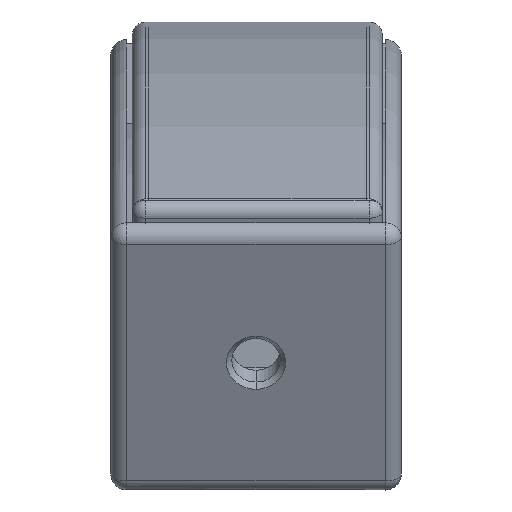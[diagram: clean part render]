
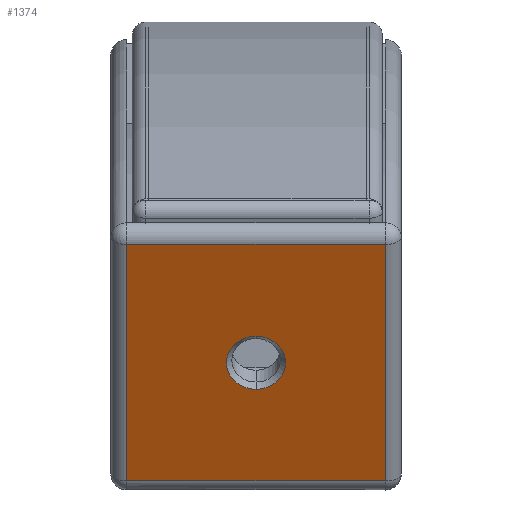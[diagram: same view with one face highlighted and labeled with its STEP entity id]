
A CAD part, front view. The second image highlights one B-rep face of the part: STEP entity #1374.
In plain terms, the highlighted planar face has unit normal (0, -0.897, -0.442).
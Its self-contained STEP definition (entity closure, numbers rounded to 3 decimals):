
#1017 = EDGE_CURVE ( 'NONE', #1019, #1020, #2327, .T. ) ;
#1019 = VERTEX_POINT ( 'NONE', #2322 ) ;
#1020 = VERTEX_POINT ( 'NONE', #2321 ) ;
#1129 = ORIENTED_EDGE ( 'NONE', *, *, #1017, .T. ) ;
#1134 = VERTEX_POINT ( 'NONE', #2491 ) ;
#1135 = ORIENTED_EDGE ( 'NONE', *, *, #1136, .T. ) ;
#1136 = EDGE_CURVE ( 'NONE', #1134, #1366, #2490, .T. ) ;
#1137 = EDGE_LOOP ( 'NONE', ( #1129, #1392 ) ) ;
#1138 = EDGE_CURVE ( 'NONE', #1438, #1134, #2486, .T. ) ;
#1139 = ORIENTED_EDGE ( 'NONE', *, *, #1138, .T. ) ;
#1140 = EDGE_CURVE ( 'NONE', #1365, #1438, #2543, .T. ) ;
#1364 = ORIENTED_EDGE ( 'NONE', *, *, #1140, .T. ) ;
#1365 = VERTEX_POINT ( 'NONE', #2973 ) ;
#1366 = VERTEX_POINT ( 'NONE', #2972 ) ;
#1367 = EDGE_LOOP ( 'NONE', ( #1368, #1364, #1139, #1135 ) ) ;
#1368 = ORIENTED_EDGE ( 'NONE', *, *, #1370, .T. ) ;
#1370 = EDGE_CURVE ( 'NONE', #1366, #1365, #2971, .T. ) ;
#1374 = ADVANCED_FACE ( 'NONE', ( #3030, #3029 ), #3028, .T. ) ;
#1383 = EDGE_CURVE ( 'NONE', #1020, #1019, #3012, .T. ) ;
#1392 = ORIENTED_EDGE ( 'NONE', *, *, #1383, .T. ) ;
#1438 = VERTEX_POINT ( 'NONE', #3146 ) ;
#2321 = CARTESIAN_POINT ( 'NONE',  ( -97.169, -263.753, -110.668 ) ) ;
#2322 = CARTESIAN_POINT ( 'NONE',  ( -97.169, -254.022, -130.4 ) ) ;
#2323 = DIRECTION ( 'NONE',  ( 0., 0.442, -0.897 ) ) ;
#2324 = DIRECTION ( 'NONE',  ( 0., 0.897, 0.442 ) ) ;
#2325 = CARTESIAN_POINT ( 'NONE',  ( -97.169, -258.888, -120.534 ) ) ;
#2326 = AXIS2_PLACEMENT_3D ( 'NONE', #2325, #2324, #2323 ) ;
#2327 = CIRCLE ( 'NONE', #2326, 11. ) ;
#2486 = LINE ( 'NONE', #2546, #2545 ) ;
#2487 = DIRECTION ( 'NONE',  ( -1., 0., 0. ) ) ;
#2488 = VECTOR ( 'NONE', #2487, 1000. ) ;
#2489 = CARTESIAN_POINT ( 'NONE',  ( -151.169, -280.56, -76.587 ) ) ;
#2490 = LINE ( 'NONE', #2489, #2488 ) ;
#2491 = CARTESIAN_POINT ( 'NONE',  ( -49.169, -280.56, -76.587 ) ) ;
#2540 = DIRECTION ( 'NONE',  ( 1., 0., 0. ) ) ;
#2541 = VECTOR ( 'NONE', #2540, 1000. ) ;
#2542 = CARTESIAN_POINT ( 'NONE',  ( -43.169, -237.215, -164.481 ) ) ;
#2543 = LINE ( 'NONE', #2542, #2541 ) ;
#2544 = DIRECTION ( 'NONE',  ( 0., -0.442, 0.897 ) ) ;
#2545 = VECTOR ( 'NONE', #2544, 1000. ) ;
#2546 = CARTESIAN_POINT ( 'NONE',  ( -49.169, -283.213, -71.206 ) ) ;
#2970 = CARTESIAN_POINT ( 'NONE',  ( -145.169, -234.562, -169.862 ) ) ;
#2971 = LINE ( 'NONE', #2970, #3032 ) ;
#2972 = CARTESIAN_POINT ( 'NONE',  ( -145.169, -280.56, -76.587 ) ) ;
#2973 = CARTESIAN_POINT ( 'NONE',  ( -145.169, -237.215, -164.481 ) ) ;
#3008 = DIRECTION ( 'NONE',  ( 0., 0.442, -0.897 ) ) ;
#3009 = DIRECTION ( 'NONE',  ( 0., 0.897, 0.442 ) ) ;
#3010 = CARTESIAN_POINT ( 'NONE',  ( -97.169, -258.888, -120.534 ) ) ;
#3011 = AXIS2_PLACEMENT_3D ( 'NONE', #3010, #3009, #3008 ) ;
#3012 = CIRCLE ( 'NONE', #3011, 11. ) ;
#3023 = DIRECTION ( 'NONE',  ( 0., 0.442, -0.897 ) ) ;
#3024 = DIRECTION ( 'NONE',  ( 0., -0.897, -0.442 ) ) ;
#3025 = CARTESIAN_POINT ( 'NONE',  ( -43.169, -283.213, -71.206 ) ) ;
#3027 = AXIS2_PLACEMENT_3D ( 'NONE', #3025, #3024, #3023 ) ;
#3028 = PLANE ( 'NONE',  #3027 ) ;
#3029 = FACE_BOUND ( 'NONE', #1137, .T. ) ;
#3030 = FACE_OUTER_BOUND ( 'NONE', #1367, .T. ) ;
#3031 = DIRECTION ( 'NONE',  ( 0., 0.442, -0.897 ) ) ;
#3032 = VECTOR ( 'NONE', #3031, 1000. ) ;
#3146 = CARTESIAN_POINT ( 'NONE',  ( -49.169, -237.215, -164.481 ) ) ;
